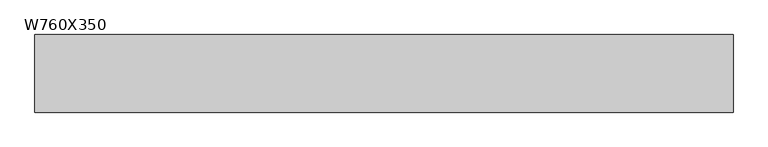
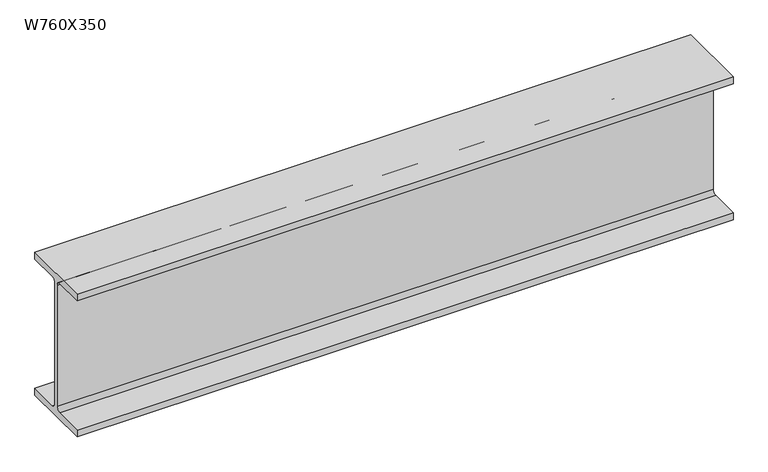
"""IFC4 building model written with IfcOpenShell, lengths in millimetres: beam geometry, M_W-Wide Flange : W760X350."""

from ifc_helpers import new_model, si_unit, point, frame, frame_2d, origin, place, context, project, spatial, polyline, circle_curve, trimmed, segment, composite_curve, outline, extrude, source, transform, mapped, element, save


def w760x350_305620d7(model_context):
    return source(origin(), model_context, "Body", "SweptSolid", [
        extrude(outline(composite_curve([segment(polyline([(192.0, -359.4), (192.0, -397.5), (-192.0, -397.5), (-192.0, -359.4), (-32.75, -359.4)]), True, "CONTINUOUS"), segment(trimmed(circle_curve(frame_2d((-32.75, -337.2)), 22.2), [point((-32.75, -359.4))], [point((-10.55, -337.2))], True, "CARTESIAN"), True, "CONTINUOUS"), segment(polyline([(-10.55, -337.2), (-10.55, 337.2)]), True, "CONTINUOUS"), segment(trimmed(circle_curve(frame_2d((-32.75, 337.2)), 22.2), [point((-10.55, 337.2))], [point((-32.75, 359.4))], True, "CARTESIAN"), True, "CONTINUOUS"), segment(polyline([(-32.75, 359.4), (-192.0, 359.4), (-192.0, 397.5), (192.0, 397.5), (192.0, 359.4), (32.75, 359.4)]), True, "CONTINUOUS"), segment(trimmed(circle_curve(frame_2d((32.75, 337.2)), 22.2), [point((32.75, 359.4))], [point((10.55, 337.2))], True, "CARTESIAN"), True, "CONTINUOUS"), segment(polyline([(10.55, 337.2), (10.55, -337.2)]), True, "CONTINUOUS"), segment(trimmed(circle_curve(frame_2d((32.75, -337.2)), 22.2), [point((10.55, -337.2))], [point((32.75, -359.4))], True, "CARTESIAN"), True, "CONTINUOUS"), segment(polyline([(32.75, -359.4), (192.0, -359.4)]), True, "CONTINUOUS")], self_intersect=False)), frame((-1648.6532017, 0.0, 0.0), z_axis=(1.0, 0.0, 0.0), x_axis=(0.0, 1.0, 0.0)), (0.0, 0.0, 1.0), 3452.6352634),
    ])


if __name__ == "__main__":
    model = new_model("IFC4")
    model_context = context("Model", 3, world=origin())
    ifc_project = project(units=[si_unit("LENGTHUNIT", "METRE", prefix="MILLI")], contexts=[model_context])
    site = spatial("IfcSite", under=ifc_project)
    building = spatial("IfcBuilding", under=site)
    placement = place(None, origin())
    w760x350_shape = w760x350_305620d7(model_context)
    element("IfcBeam", 1, ObjectType="M_W-Wide Flange : W760X350", at=placement, inside=building, context=model_context, shape_type="MappedRepresentation", body=[
        mapped(w760x350_shape, transform((0.0, 0.0, 0.0), x_axis=(1.0, 0.0, 0.0), y_axis=(0.0, 1.0, 0.0), z_axis=(0.0, 0.0, 1.0))),
    ])
    save(model, "model.ifc")
